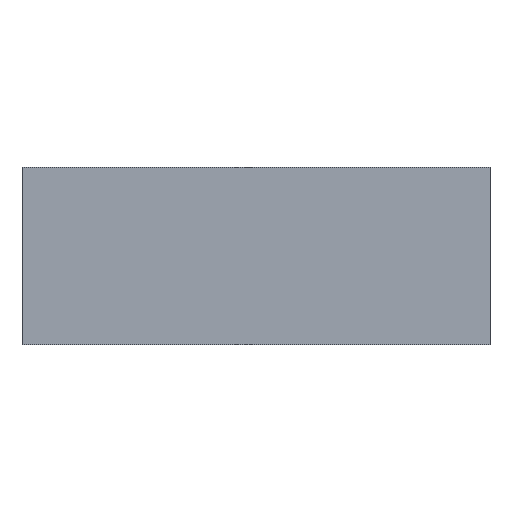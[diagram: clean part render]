
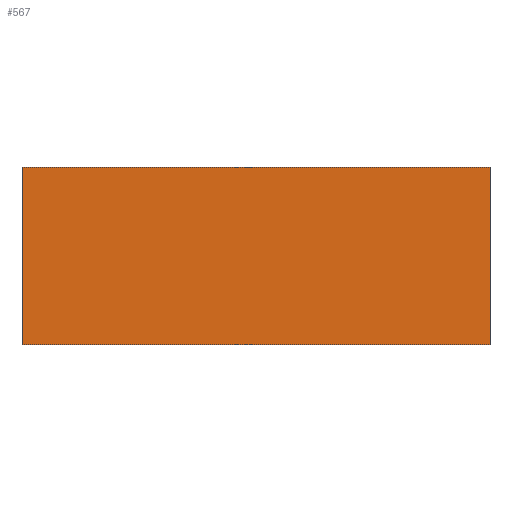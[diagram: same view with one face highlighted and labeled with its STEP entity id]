
A CAD part, front view. The second image highlights one B-rep face of the part: STEP entity #567.
In plain terms, the highlighted planar face has unit normal (0, -1, 0).
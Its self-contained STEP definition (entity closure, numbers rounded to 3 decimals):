
#66 = VERTEX_POINT ( 'NONE', #834 ) ;
#78 = VERTEX_POINT ( 'NONE', #822 ) ;
#98 = AXIS2_PLACEMENT_3D ( 'NONE', #746, #751, #752 ) ;
#134 = FACE_OUTER_BOUND ( 'NONE', #186, .T. ) ;
#186 = EDGE_LOOP ( 'NONE', ( #290, #291, #214, #300 ) ) ;
#214 = ORIENTED_EDGE ( 'NONE', *, *, #534, .F. ) ;
#290 = ORIENTED_EDGE ( 'NONE', *, *, #532, .T. ) ;
#291 = ORIENTED_EDGE ( 'NONE', *, *, #533, .F. ) ;
#300 = ORIENTED_EDGE ( 'NONE', *, *, #529, .T. ) ;
#415 = LINE ( 'NONE', #649, #418 ) ;
#417 = LINE ( 'NONE', #644, #428 ) ;
#418 = VECTOR ( 'NONE', #651, 1000. ) ;
#421 = LINE ( 'NONE', #655, #424 ) ;
#423 = LINE ( 'NONE', #657, #426 ) ;
#424 = VECTOR ( 'NONE', #656, 1000. ) ;
#426 = VECTOR ( 'NONE', #659, 1000. ) ;
#428 = VECTOR ( 'NONE', #660, 1000. ) ;
#529 = EDGE_CURVE ( 'NONE', #66, #78, #415, .T. ) ;
#532 = EDGE_CURVE ( 'NONE', #78, #902, #421, .T. ) ;
#533 = EDGE_CURVE ( 'NONE', #903, #902, #423, .T. ) ;
#534 = EDGE_CURVE ( 'NONE', #66, #903, #417, .T. ) ;
#567 = ADVANCED_FACE ( 'NONE', ( #134 ), #748, .F. ) ;
#644 = CARTESIAN_POINT ( 'NONE',  ( -17.1, -57.5, 13. ) ) ;
#649 = CARTESIAN_POINT ( 'NONE',  ( -17.1, -57.5, 13. ) ) ;
#651 = DIRECTION ( 'NONE',  ( 0., 0., -1. ) ) ;
#655 = CARTESIAN_POINT ( 'NONE',  ( -17.1, -57.5, 0. ) ) ;
#656 = DIRECTION ( 'NONE',  ( 1., 0., 0. ) ) ;
#657 = CARTESIAN_POINT ( 'NONE',  ( 17.1, -57.5, 13. ) ) ;
#659 = DIRECTION ( 'NONE',  ( 0., 0., -1. ) ) ;
#660 = DIRECTION ( 'NONE',  ( 1., 0., 0. ) ) ;
#746 = CARTESIAN_POINT ( 'NONE',  ( -17.1, -57.5, 13. ) ) ;
#748 = PLANE ( 'NONE',  #98 ) ;
#751 = DIRECTION ( 'NONE',  ( 0., 1., 0. ) ) ;
#752 = DIRECTION ( 'NONE',  ( 0., 0., 1. ) ) ;
#767 = CARTESIAN_POINT ( 'NONE',  ( 17.1, -57.5, 0. ) ) ;
#768 = CARTESIAN_POINT ( 'NONE',  ( 17.1, -57.5, 13. ) ) ;
#822 = CARTESIAN_POINT ( 'NONE',  ( -17.1, -57.5, 0. ) ) ;
#834 = CARTESIAN_POINT ( 'NONE',  ( -17.1, -57.5, 13. ) ) ;
#902 = VERTEX_POINT ( 'NONE', #767 ) ;
#903 = VERTEX_POINT ( 'NONE', #768 ) ;
